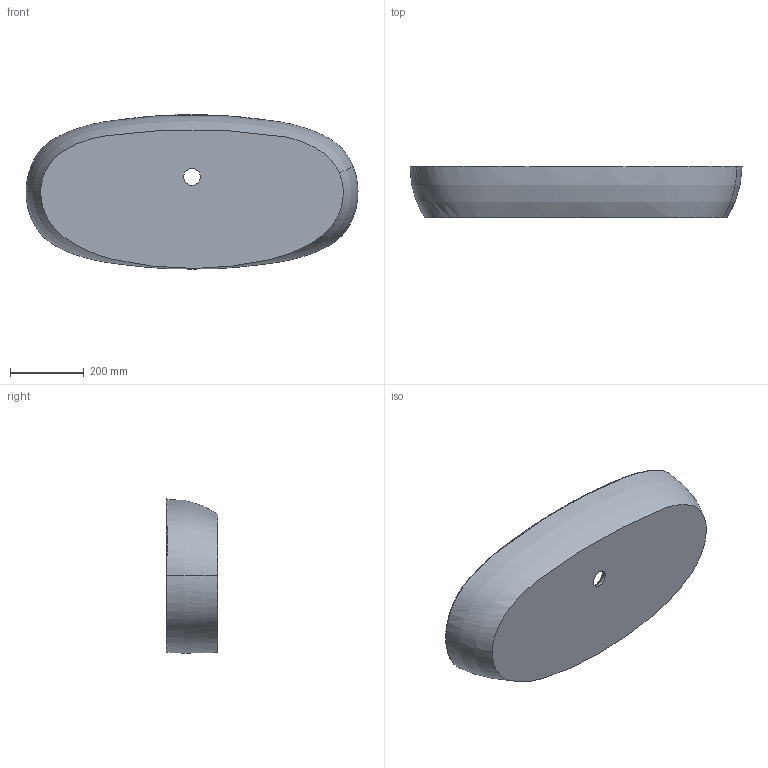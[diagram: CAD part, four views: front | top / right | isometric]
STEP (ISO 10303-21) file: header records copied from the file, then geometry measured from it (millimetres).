
FILE_DESCRIPTION(/* description */ (''),/* implementation_level */ '2;1');
FILE_NAME(/* name */ 'ECI90',/* time_stamp */ '2017-12-11T12:28:34+01:00',/* author */ (''),/* organization */ (''),/* preprocessor_version */ 'ST-DEVELOPER v15',/* originating_system */ '',/* authorisation */ '');
FILE_SCHEMA (('AUTOMOTIVE_DESIGN'));
Length unit declared in the file: millimetre
Products named in the file (1): Document
Bounding box: 899.98 x 140 x 418.02 mm (x, y, z)
Volume: 19921388.5 mm3; surface area: 998770.4 mm2
Topology: 1 solids, 2 shells, 39 faces, 108 edges, 74 vertices
Faces by surface type: bspline 36, plane 3
Entity records: 8791 total; most frequent: CARTESIAN_POINT 8209, ORIENTED_EDGE 204, EDGE_CURVE 104, VERTEX_POINT 66, EDGE_LOOP 40, ADVANCED_FACE 39, FACE_OUTER_BOUND 39, B_SPLINE_CURVE_WITH_KNOTS 31
